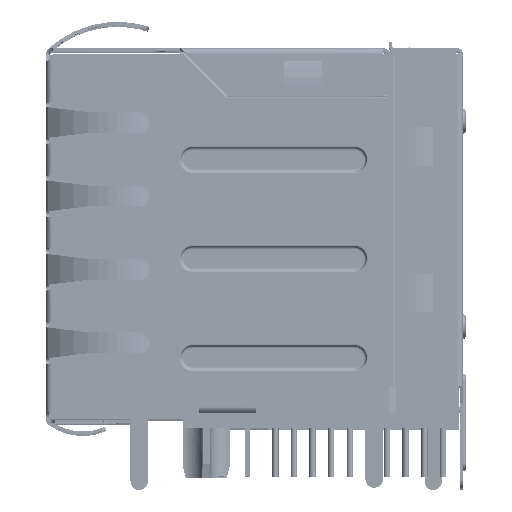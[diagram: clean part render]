
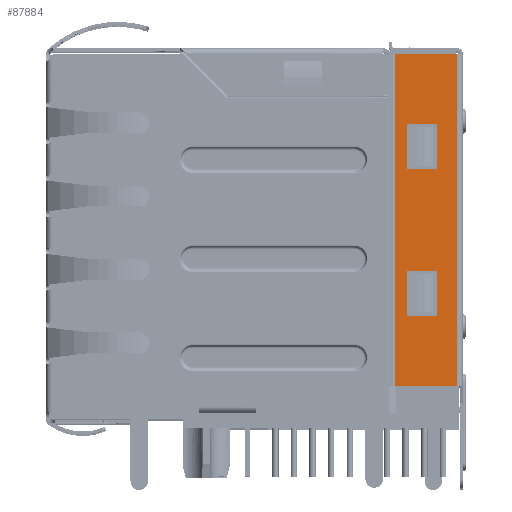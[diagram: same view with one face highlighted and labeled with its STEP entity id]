
A CAD part, top view. The second image highlights one B-rep face of the part: STEP entity #87884.
In plain terms, the highlighted planar face has unit normal (0, 0, 1) as drawn and (-1, 0, 0) by its records, which use the part's own axes.
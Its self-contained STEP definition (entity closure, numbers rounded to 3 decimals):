
#81880=DIRECTION('',(0.,1.,0.));
#81881=VECTOR('',#81880,22.6);
#81882=CARTESIAN_POINT('',(-43.56,-11.5,-0.2));
#81883=LINE('',#81882,#81881);
#81950=DIRECTION('',(0.,0.,1.));
#81951=VECTOR('',#81950,4.25);
#81952=CARTESIAN_POINT('',(-43.56,11.1,-4.45));
#81953=LINE('',#81952,#81951);
#81954=DIRECTION('',(0.,0.,1.));
#81955=VECTOR('',#81954,4.25);
#81956=CARTESIAN_POINT('',(-43.56,-11.5,-4.45));
#81957=LINE('',#81956,#81955);
#81976=DIRECTION('',(0.,-1.,0.));
#81977=VECTOR('',#81976,22.6);
#81978=CARTESIAN_POINT('',(-43.56,11.1,-4.45));
#81979=LINE('',#81978,#81977);
#82038=DIRECTION('',(0.,0.,1.));
#82039=VECTOR('',#82038,2.);
#82040=CARTESIAN_POINT('',(-43.56,-3.65,-3.6));
#82041=LINE('',#82040,#82039);
#82046=DIRECTION('',(0.,1.,0.));
#82047=VECTOR('',#82046,3.1);
#82048=CARTESIAN_POINT('',(-43.56,-6.75,-3.6));
#82049=LINE('',#82048,#82047);
#82054=DIRECTION('',(0.,0.,-1.));
#82055=VECTOR('',#82054,2.);
#82056=CARTESIAN_POINT('',(-43.56,-6.75,-1.6));
#82057=LINE('',#82056,#82055);
#82062=DIRECTION('',(0.,-1.,0.));
#82063=VECTOR('',#82062,3.1);
#82064=CARTESIAN_POINT('',(-43.56,-3.65,-1.6));
#82065=LINE('',#82064,#82063);
#82070=DIRECTION('',(0.,0.,1.));
#82071=VECTOR('',#82070,2.);
#82072=CARTESIAN_POINT('',(-43.56,6.35,-3.6));
#82073=LINE('',#82072,#82071);
#82078=DIRECTION('',(0.,1.,0.));
#82079=VECTOR('',#82078,3.1);
#82080=CARTESIAN_POINT('',(-43.56,3.25,-3.6));
#82081=LINE('',#82080,#82079);
#82086=DIRECTION('',(0.,0.,-1.));
#82087=VECTOR('',#82086,2.);
#82088=CARTESIAN_POINT('',(-43.56,3.25,-1.6));
#82089=LINE('',#82088,#82087);
#82094=DIRECTION('',(0.,-1.,0.));
#82095=VECTOR('',#82094,3.1);
#82096=CARTESIAN_POINT('',(-43.56,6.35,-1.6));
#82097=LINE('',#82096,#82095);
#84736=CARTESIAN_POINT('',(-43.56,-11.5,-0.2));
#84737=VERTEX_POINT('',#84736);
#84740=CARTESIAN_POINT('',(-43.56,11.1,-0.2));
#84741=VERTEX_POINT('',#84740);
#84764=CARTESIAN_POINT('',(-43.56,11.1,-4.45));
#84765=VERTEX_POINT('',#84764);
#84766=CARTESIAN_POINT('',(-43.56,-11.5,-4.45));
#84767=VERTEX_POINT('',#84766);
#84768=CARTESIAN_POINT('',(-43.56,-3.65,-3.6));
#84769=CARTESIAN_POINT('',(-43.56,-3.65,-1.6));
#84770=VERTEX_POINT('',#84768);
#84771=VERTEX_POINT('',#84769);
#84772=CARTESIAN_POINT('',(-43.56,-6.75,-3.6));
#84773=VERTEX_POINT('',#84772);
#84774=CARTESIAN_POINT('',(-43.56,-6.75,-1.6));
#84775=VERTEX_POINT('',#84774);
#84776=CARTESIAN_POINT('',(-43.56,6.35,-3.6));
#84777=CARTESIAN_POINT('',(-43.56,6.35,-1.6));
#84778=VERTEX_POINT('',#84776);
#84779=VERTEX_POINT('',#84777);
#84780=CARTESIAN_POINT('',(-43.56,3.25,-3.6));
#84781=VERTEX_POINT('',#84780);
#84782=CARTESIAN_POINT('',(-43.56,3.25,-1.6));
#84783=VERTEX_POINT('',#84782);
#87851=CARTESIAN_POINT('',(-43.56,11.1,-0.2));
#87852=DIRECTION('',(-1.,0.,0.));
#87853=DIRECTION('',(0.,0.,-1.));
#87854=AXIS2_PLACEMENT_3D('',#87851,#87852,#87853);
#87855=PLANE('',#87854);
#87856=ORIENTED_EDGE('',*,*,#87844,.T.);
#87857=ORIENTED_EDGE('',*,*,#87770,.F.);
#87859=ORIENTED_EDGE('',*,*,#87858,.F.);
#87861=ORIENTED_EDGE('',*,*,#87860,.F.);
#87862=EDGE_LOOP('',(#87856,#87857,#87859,#87861));
#87863=FACE_OUTER_BOUND('',#87862,.F.);
#87865=ORIENTED_EDGE('',*,*,#87864,.F.);
#87867=ORIENTED_EDGE('',*,*,#87866,.F.);
#87869=ORIENTED_EDGE('',*,*,#87868,.F.);
#87871=ORIENTED_EDGE('',*,*,#87870,.F.);
#87872=EDGE_LOOP('',(#87865,#87867,#87869,#87871));
#87873=FACE_BOUND('',#87872,.F.);
#87875=ORIENTED_EDGE('',*,*,#87874,.F.);
#87877=ORIENTED_EDGE('',*,*,#87876,.F.);
#87879=ORIENTED_EDGE('',*,*,#87878,.F.);
#87881=ORIENTED_EDGE('',*,*,#87880,.F.);
#87882=EDGE_LOOP('',(#87875,#87877,#87879,#87881));
#87883=FACE_BOUND('',#87882,.F.);
#87884=ADVANCED_FACE('',(#87863,#87873,#87883),#87855,.T.);
#87770=EDGE_CURVE('',#84737,#84741,#81883,.T.);
#87844=EDGE_CURVE('',#84765,#84741,#81953,.T.);
#87858=EDGE_CURVE('',#84767,#84737,#81957,.T.);
#87860=EDGE_CURVE('',#84765,#84767,#81979,.T.);
#87864=EDGE_CURVE('',#84770,#84771,#82041,.T.);
#87866=EDGE_CURVE('',#84773,#84770,#82049,.T.);
#87868=EDGE_CURVE('',#84775,#84773,#82057,.T.);
#87870=EDGE_CURVE('',#84771,#84775,#82065,.T.);
#87874=EDGE_CURVE('',#84778,#84779,#82073,.T.);
#87876=EDGE_CURVE('',#84781,#84778,#82081,.T.);
#87878=EDGE_CURVE('',#84783,#84781,#82089,.T.);
#87880=EDGE_CURVE('',#84779,#84783,#82097,.T.);
